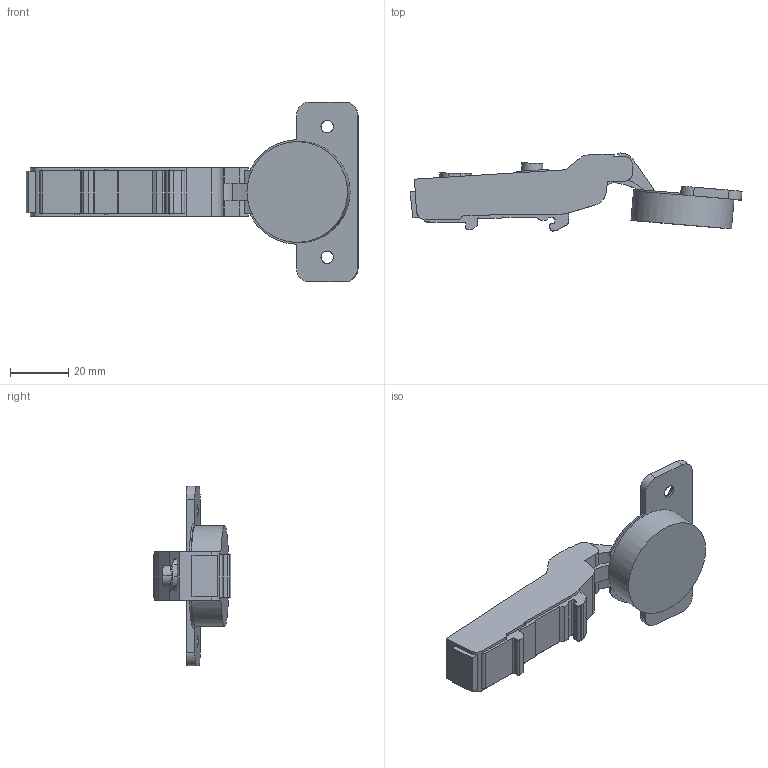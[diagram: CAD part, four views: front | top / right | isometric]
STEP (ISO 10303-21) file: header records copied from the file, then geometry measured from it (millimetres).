
FILE_DESCRIPTION (( 'STEP AP203' ), '1' );
FILE_NAME ('C85B6A5F-DTC3D open.STEP', '2021-04-10T08:50:54', ( '' ), ( '' ), 'SwSTEP 2.0', 'SolidWorks 2018', '' );
FILE_SCHEMA (( 'CONFIG_CONTROL_DESIGN' ));
Length unit declared in the file: millimetre
Products named in the file (1): C85B6A5F-DTC3D open
Bounding box: 114.47 x 26.88 x 62 mm (x, y, z)
Surface area: 11106 mm2 (no closed solid volume)
Topology: 0 solids, 2 shells, 178 faces, 502 edges, 332 vertices
Faces by surface type: plane 80, cylinder 77, torus 12, bspline 5, cone 4
Entity records: 7502 total; most frequent: CARTESIAN_POINT 3815, ORIENTED_EDGE 1000, EDGE_CURVE 502, B_SPLINE_CURVE_WITH_KNOTS 492, DIRECTION 358, VERTEX_POINT 332, EDGE_LOOP 188, ADVANCED_FACE 178
